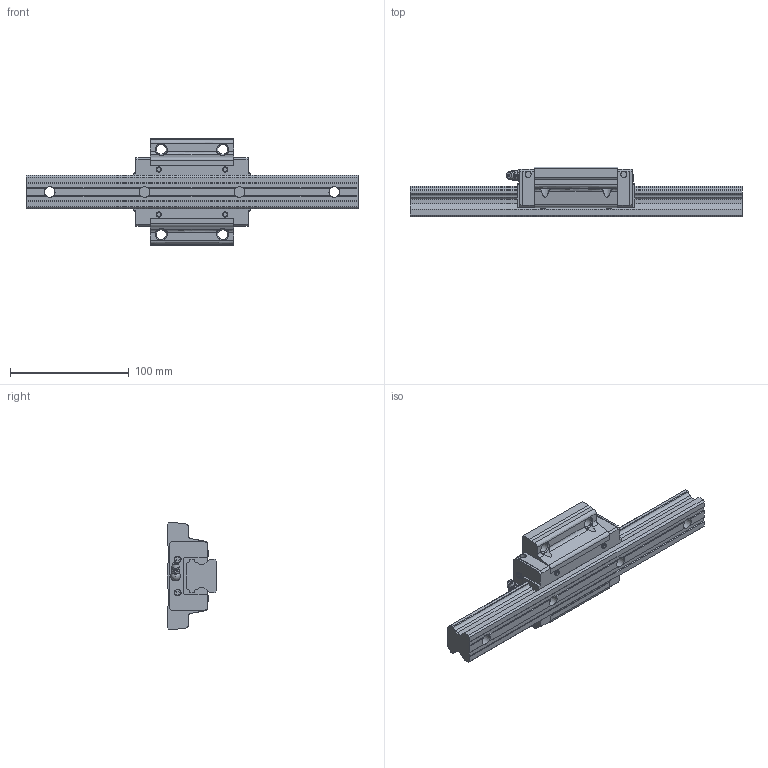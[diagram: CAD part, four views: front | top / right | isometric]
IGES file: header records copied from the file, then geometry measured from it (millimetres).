
Start section: Data from Parasolid IGES Translator 26.0.171, Copyright(c) 2006 Siemens PLM Software. All Rights Reserved.
Global section: file name: HSR30M1A1SS-280L_G20_0_B-M6F_90-6_0_0_0_1.igs; native system: By Siemens PLM Incorporated; preprocessor: XPlus GENERIC/IGES 26.0.171; author: Noname; organization: Noname; date: 20240523.060916; units: millimetre
Bounding box: 280 x 42 x 90 mm (x, y, z)
Surface area: 68212.1 mm2 (no closed solid volume)
Topology: 0 solids, 0 shells, 293 faces, 1594 edges, 1528 vertices
Faces by surface type: extrusion 206, revolution 87
